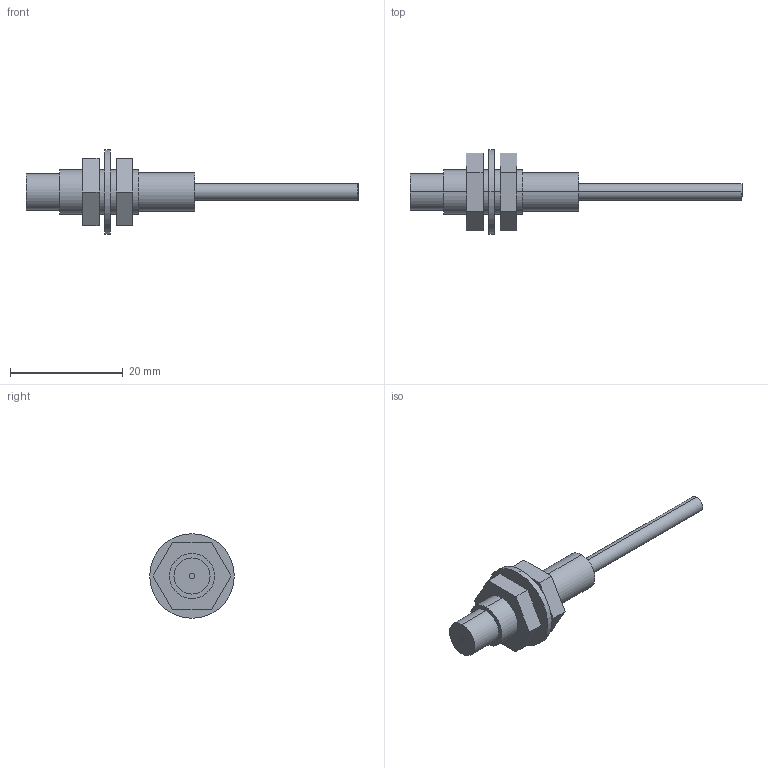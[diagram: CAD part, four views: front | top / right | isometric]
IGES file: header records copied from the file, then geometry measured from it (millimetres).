
Start section: SolidWorks IGES FILE using analytic representation for surfaces
Global section: file name: C:\Documents and Settings\yk0651\デスクトップ\3D_catalog_050929\0_IGES\GX-8MLU.IGS; native system: SolidWorks 2004 by SolidWorks Corporation; preprocessor: Version 5.3; author: yk0651; date: 051002.164302; units: millimetre
Bounding box: 59 x 15 x 15 mm (x, y, z)
Volume: 2024.2 mm3; surface area: 2075.3 mm2
Topology: 4 solids, 4 shells, 51 faces, 108 edges, 72 vertices
Faces by surface type: plane 27, revolution 24
